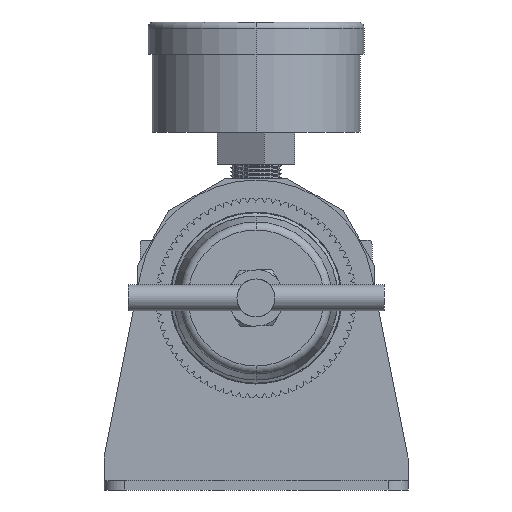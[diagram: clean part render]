
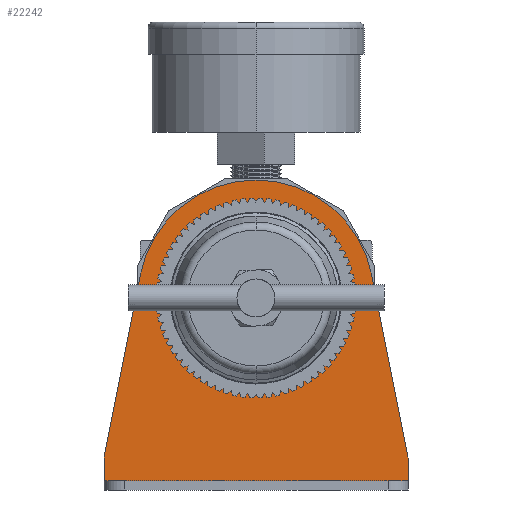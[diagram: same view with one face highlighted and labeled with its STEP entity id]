
A CAD part, front view. The second image highlights one B-rep face of the part: STEP entity #22242.
In plain terms, the highlighted planar face has unit normal (0, -1, 0) as drawn and (0, 1, 0) by its records, which use the part's own axes.
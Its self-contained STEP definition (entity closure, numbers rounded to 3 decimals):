
#290 = AXIS2_PLACEMENT_3D ( 'NONE', #3165, #27139, #31241 ) ;
#817 = DIRECTION ( 'NONE',  ( 0., 1., 0. ) ) ;
#1349 = EDGE_CURVE ( 'NONE', #29983, #21009, #11608, .T. ) ;
#2873 = AXIS2_PLACEMENT_3D ( 'NONE', #15635, #10009, #16637 ) ;
#3061 = CARTESIAN_POINT ( 'NONE',  ( 0., 2.3, 0. ) ) ;
#3165 = CARTESIAN_POINT ( 'NONE',  ( 0., 2.3, 0. ) ) ;
#3656 = EDGE_CURVE ( 'NONE', #27651, #25692, #20055, .T. ) ;
#4940 = ORIENTED_EDGE ( 'NONE', *, *, #23741, .T. ) ;
#5270 = ORIENTED_EDGE ( 'NONE', *, *, #25719, .T. ) ;
#6236 = CARTESIAN_POINT ( 'NONE',  ( 38., 2.3, -48. ) ) ;
#6388 = FACE_BOUND ( 'NONE', #30342, .T. ) ;
#6903 = CARTESIAN_POINT ( 'NONE',  ( 38., 2.3, -45.7 ) ) ;
#6909 = CARTESIAN_POINT ( 'NONE',  ( 0., 2.3, 0. ) ) ;
#7584 = VERTEX_POINT ( 'NONE', #15795 ) ;
#7934 = ORIENTED_EDGE ( 'NONE', *, *, #3656, .T. ) ;
#8077 = EDGE_LOOP ( 'NONE', ( #21655, #5270, #14516, #24799, #4940, #7934 ) ) ;
#9656 = AXIS2_PLACEMENT_3D ( 'NONE', #6909, #817, #17152 ) ;
#10009 = DIRECTION ( 'NONE',  ( 0., 1., 0. ) ) ;
#10238 = ORIENTED_EDGE ( 'NONE', *, *, #12040, .F. ) ;
#10626 = CARTESIAN_POINT ( 'NONE',  ( 0., 2.3, -45.7 ) ) ;
#10778 = DIRECTION ( 'NONE',  ( 0., 0., 1. ) ) ;
#11065 = CIRCLE ( 'NONE', #2873, 24. ) ;
#11241 = DIRECTION ( 'NONE',  ( 0., 0., 1. ) ) ;
#11311 = LINE ( 'NONE', #28648, #12009 ) ;
#11608 = CIRCLE ( 'NONE', #290, 29.5 ) ;
#12009 = VECTOR ( 'NONE', #10778, 1000. ) ;
#12040 = EDGE_CURVE ( 'NONE', #28677, #29427, #11065, .T. ) ;
#12762 = CARTESIAN_POINT ( 'NONE',  ( -38., 2.3, -40. ) ) ;
#12895 = CARTESIAN_POINT ( 'NONE',  ( 0., 2.3, -24. ) ) ;
#13236 = CARTESIAN_POINT ( 'NONE',  ( 28.937, 2.3, 5.734 ) ) ;
#14225 = LINE ( 'NONE', #10626, #17573 ) ;
#14516 = ORIENTED_EDGE ( 'NONE', *, *, #26326, .T. ) ;
#14855 = VECTOR ( 'NONE', #22107, 1000. ) ;
#15116 = CARTESIAN_POINT ( 'NONE',  ( 0., 2.3, 24. ) ) ;
#15635 = CARTESIAN_POINT ( 'NONE',  ( 0., 2.3, 0. ) ) ;
#15727 = CIRCLE ( 'NONE', #30367, 24. ) ;
#15795 = CARTESIAN_POINT ( 'NONE',  ( -38., 2.3, -45.7 ) ) ;
#16257 = VECTOR ( 'NONE', #17086, 1000. ) ;
#16299 = EDGE_CURVE ( 'NONE', #29427, #28677, #15727, .T. ) ;
#16545 = DIRECTION ( 'NONE',  ( 0.194, 0., -0.981 ) ) ;
#16637 = DIRECTION ( 'NONE',  ( 0., 0., 1. ) ) ;
#17086 = DIRECTION ( 'NONE',  ( 0.194, 0., 0.981 ) ) ;
#17111 = CARTESIAN_POINT ( 'NONE',  ( -38., 2.3, -40. ) ) ;
#17152 = DIRECTION ( 'NONE',  ( 0., 0., 1. ) ) ;
#17573 = VECTOR ( 'NONE', #26397, 1000. ) ;
#17584 = ORIENTED_EDGE ( 'NONE', *, *, #16299, .F. ) ;
#18118 = LINE ( 'NONE', #17111, #16257 ) ;
#19201 = FACE_OUTER_BOUND ( 'NONE', #8077, .T. ) ;
#20055 = LINE ( 'NONE', #6236, #14855 ) ;
#21009 = VERTEX_POINT ( 'NONE', #13236 ) ;
#21655 = ORIENTED_EDGE ( 'NONE', *, *, #26907, .F. ) ;
#22107 = DIRECTION ( 'NONE',  ( 0., 0., -1. ) ) ;
#22242 = ADVANCED_FACE ( 'NONE', ( #6388, #19201 ), #29391, .T. ) ;
#23741 = EDGE_CURVE ( 'NONE', #21009, #27651, #25199, .T. ) ;
#24799 = ORIENTED_EDGE ( 'NONE', *, *, #1349, .T. ) ;
#25026 = DIRECTION ( 'NONE',  ( 0., 1., 0. ) ) ;
#25176 = VERTEX_POINT ( 'NONE', #12762 ) ;
#25199 = LINE ( 'NONE', #29827, #26831 ) ;
#25692 = VERTEX_POINT ( 'NONE', #6903 ) ;
#25719 = EDGE_CURVE ( 'NONE', #7584, #25176, #11311, .T. ) ;
#26326 = EDGE_CURVE ( 'NONE', #25176, #29983, #18118, .T. ) ;
#26397 = DIRECTION ( 'NONE',  ( 1., 0., 0. ) ) ;
#26831 = VECTOR ( 'NONE', #16545, 1000. ) ;
#26907 = EDGE_CURVE ( 'NONE', #7584, #25692, #14225, .T. ) ;
#27139 = DIRECTION ( 'NONE',  ( 0., 1., 0. ) ) ;
#27455 = CARTESIAN_POINT ( 'NONE',  ( -28.937, 2.3, 5.734 ) ) ;
#27651 = VERTEX_POINT ( 'NONE', #30698 ) ;
#28648 = CARTESIAN_POINT ( 'NONE',  ( -38., 2.3, -48. ) ) ;
#28677 = VERTEX_POINT ( 'NONE', #12895 ) ;
#29391 = PLANE ( 'NONE',  #9656 ) ;
#29427 = VERTEX_POINT ( 'NONE', #15116 ) ;
#29827 = CARTESIAN_POINT ( 'NONE',  ( 38., 2.3, -40. ) ) ;
#29983 = VERTEX_POINT ( 'NONE', #27455 ) ;
#30342 = EDGE_LOOP ( 'NONE', ( #17584, #10238 ) ) ;
#30367 = AXIS2_PLACEMENT_3D ( 'NONE', #3061, #25026, #11241 ) ;
#30698 = CARTESIAN_POINT ( 'NONE',  ( 38., 2.3, -40. ) ) ;
#31241 = DIRECTION ( 'NONE',  ( 0., 0., 1. ) ) ;
